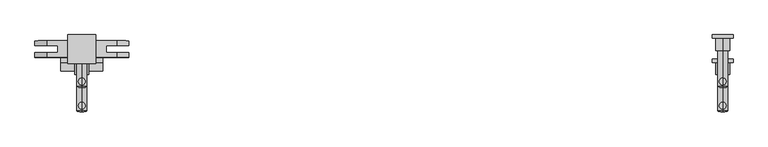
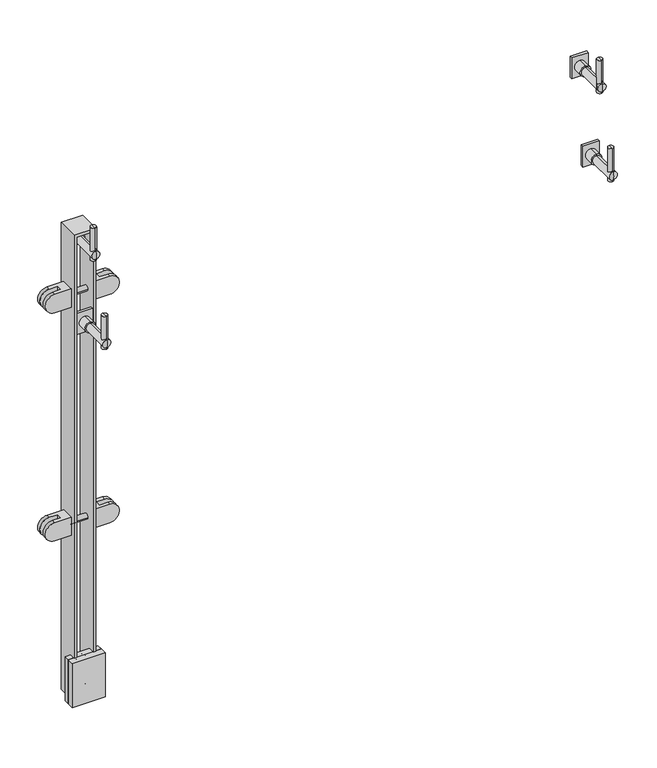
"""IFC4 building model written with IfcOpenShell, lengths in millimetres: proxy geometry, LIVERS_ICN - Glass Panel : LIVERS_ICN - Glass Panel."""

from ifc_helpers import new_model, si_unit, point, frame, origin, place, context, project, spatial, polyline, circle_curve, ellipse_curve, trimmed, outline, extrude, faceted_brep, source, transform, mapped, element, save
from ifc_brep_helpers import plane_surface, cylinder_surface, revolved_surface, advanced_brep


def building_element_proxy_1b5f86b6(model_context):
    return source(origin(), model_context, "Body", "SolidModel", [
        advanced_brep(
        [(46.6787319, 60.3249609, 991.2180522), (46.6787319, 60.3249609, 978.5180522), (46.6787319, 60.3249609, 965.8180522), (46.6787319, 38.0999609, 991.2180522), (46.6787319, 38.0999609, 965.8180522), (46.6787319, 38.0999609, 978.5180522)],
        [
            (0, 1),
            (1, 2),
            (2, 0, circle_curve(frame((46.6787319, 60.3249609, 978.5180522), z_axis=(0.0, 1.0, 0.0), x_axis=(0.0, 0.0, -1.0)), 12.7)),
            (0, 2, circle_curve(frame((46.6787319, 60.3249609, 978.5180522), z_axis=(0.0, 1.0, 0.0), x_axis=(0.0, 0.0, -1.0)), 12.7)),
            (3, 0),
            (2, 4),
            (4, 3, circle_curve(frame((46.6787319, 38.0999609, 978.5180522), z_axis=(0.0, 1.0, 0.0), x_axis=(0.0, 0.0, -1.0)), 12.7)),
            (3, 4, circle_curve(frame((46.6787319, 38.0999609, 978.5180522), z_axis=(0.0, 1.0, 0.0), x_axis=(0.0, 0.0, -1.0)), 12.7)),
            (5, 3),
            (4, 5),
        ],
        [
            plane_surface(frame((46.6787319, 60.3249609, 978.5180522), z_axis=(0.0, 1.0, 0.0), x_axis=(0.0, 0.0, -1.0))),
            cylinder_surface(frame((46.6787319, 69.3828283, 978.5180522), z_axis=(0.0, -1.0, 0.0), x_axis=(0.0, 0.0, -1.0)), 12.7),
            plane_surface(frame((46.6787319, 38.0999609, 978.5180522), z_axis=(0.0, -1.0, 0.0), x_axis=(0.0, 0.0, -1.0))),
        ],
        [
            (0, [[1, 2, 3]]),
            (0, [[-2, -1, 4]]),
            (1, [[5, -3, 6, 7]]),
            (1, [[-6, -4, -5, 8]]),
            (2, [[9, -7, 10]]),
            (2, [[-10, -8, -9]]),
        ],
    ),
        advanced_brep(
        [(46.6787319, -25.4004131, 1043.1838845), (46.6787319, -19.0504161, 1043.1838845), (46.6787319, -12.7004191, 1043.1838845), (46.6787319, -25.4004131, 962.7878163), (46.6787319, -12.7004191, 962.7878163), (46.6787319, -19.0504161, 962.7878163)],
        [
            (0, 1),
            (1, 2),
            (2, 0, circle_curve(frame((46.6787319, -19.0504161, 1043.1838845), z_axis=(0.0, 0.0, 1.0), x_axis=(0.0, 1.0, 0.0)), 6.349997)),
            (0, 2, circle_curve(frame((46.6787319, -19.0504161, 1043.1838845), z_axis=(0.0, 0.0, 1.0), x_axis=(0.0, 1.0, 0.0)), 6.349997)),
            (3, 0),
            (2, 4),
            (4, 3, circle_curve(frame((46.6787319, -19.0504161, 962.7878163), z_axis=(0.0, 0.0, 1.0), x_axis=(0.0, 1.0, 0.0)), 6.349997)),
            (3, 4, circle_curve(frame((46.6787319, -19.0504161, 962.7878163), z_axis=(0.0, 0.0, 1.0), x_axis=(0.0, 1.0, 0.0)), 6.349997)),
            (5, 3),
            (4, 5),
        ],
        [
            plane_surface(frame((46.6787319, -19.0504161, 1043.1838845), z_axis=(0.0, 0.0, 1.0), x_axis=(0.0, 1.0, 0.0))),
            cylinder_surface(frame((46.6787319, -19.0504161, 1057.0348914), z_axis=(0.0, 0.0, -1.0), x_axis=(0.0, 1.0, 0.0)), 6.349997),
            plane_surface(frame((46.6787319, -19.0504161, 962.7878163), z_axis=(0.0, 0.0, -1.0), x_axis=(0.0, 1.0, 0.0))),
        ],
        [
            (0, [[1, 2, 3]]),
            (0, [[-2, -1, 4]]),
            (1, [[5, -3, 6, 7]]),
            (1, [[-6, -4, -5, 8]]),
            (2, [[9, -7, 10]]),
            (2, [[-10, -8, -9]]),
        ],
    ),
        advanced_brep(
        [(46.6787319, -30.1375464, 978.5180522), (46.6787319, -28.5500464, 988.0430522), (46.6787319, -28.5500464, 968.9930522), (46.6787319, 38.0999609, 988.0430522), (46.6787319, 38.0999609, 978.5180522), (46.6787319, 38.0999609, 968.9930522)],
        [
            (0, 1, circle_curve(frame((46.6787319, -0.7687964, 978.5180522), z_axis=(-1.0, 0.0, 0.0), x_axis=(0.0, 1.0, 0.0)), 29.36875)),
            (1, 2, circle_curve(frame((46.6787319, -28.5500464, 978.5180522), z_axis=(0.0, -1.0, 0.0), x_axis=(0.0, 0.0, -1.0)), 9.525)),
            (2, 0, circle_curve(frame((46.6787319, -0.7687964, 978.5180522), z_axis=(-1.0, 0.0, 0.0), x_axis=(0.0, 1.0, 0.0)), 29.36875)),
            (2, 1, circle_curve(frame((46.6787319, -28.5500464, 978.5180522), z_axis=(0.0, -1.0, 0.0), x_axis=(0.0, 0.0, -1.0)), 9.525)),
            (3, 4),
            (4, 5),
            (5, 3, circle_curve(frame((46.6787319, 38.0999609, 978.5180522), z_axis=(0.0, 1.0, 0.0), x_axis=(0.0, 0.0, -1.0)), 9.525)),
            (3, 5, circle_curve(frame((46.6787319, 38.0999609, 978.5180522), z_axis=(0.0, 1.0, 0.0), x_axis=(0.0, 0.0, -1.0)), 9.525)),
            (1, 3),
            (5, 2),
        ],
        [
            revolved_surface(trimmed(ellipse_curve(frame((46.6787319, -0.7687964, 978.5180522), z_axis=(-1.0, 0.0, 0.0), x_axis=(0.0, 1.0, 0.0)), 29.36875, 29.36875), [point((46.6787319, -28.5500464, 968.9930522))], [point((46.6787319, -30.1375464, 978.5180522))], True, "CARTESIAN"), (46.6787319, 30.3031204, 978.5180522), (0.0, -1.0, 0.0)),
            plane_surface(frame((46.6787319, 38.0999609, 978.5180522), z_axis=(0.0, 1.0, 0.0), x_axis=(0.0, 0.0, -1.0))),
            cylinder_surface(frame((46.6787319, 30.3031204, 978.5180522), z_axis=(0.0, -1.0, 0.0), x_axis=(0.0, 0.0, -1.0)), 9.525),
        ],
        [
            (0, [[1, 2, 3]]),
            (0, [[-3, 4, -1]]),
            (1, [[5, 6, 7]]),
            (1, [[-6, -5, 8]]),
            (2, [[9, -7, 10, -2]]),
            (2, [[-10, -8, -9, -4]]),
        ],
    ),
        extrude(outline(polyline([(65.7287319, 66.6749609), (65.7287319, 60.3249609), (27.6287319, 60.3249609), (27.6287319, 66.6749609), (65.7287319, 66.6749609)])), frame((0.0, 0.0, 953.1180522), z_axis=(0.0, 0.0, 1.0), x_axis=(1.0, 0.0, 0.0)), (0.0, 0.0, 1.0), 50.8),
        advanced_brep(
        [(1219.2, 60.3249609, 991.2180522), (1219.2, 60.3249609, 978.5180522), (1219.2, 60.3249609, 965.8180522), (1219.2, 38.0999609, 991.2180522), (1219.2, 38.0999609, 965.8180522), (1219.2, 38.0999609, 978.5180522)],
        [
            (0, 1),
            (1, 2),
            (2, 0, circle_curve(frame((1219.2, 60.3249609, 978.5180522), z_axis=(0.0, 1.0, 0.0), x_axis=(0.0, 0.0, -1.0)), 12.7)),
            (0, 2, circle_curve(frame((1219.2, 60.3249609, 978.5180522), z_axis=(0.0, 1.0, 0.0), x_axis=(0.0, 0.0, -1.0)), 12.7)),
            (3, 0),
            (2, 4),
            (4, 3, circle_curve(frame((1219.2, 38.0999609, 978.5180522), z_axis=(0.0, 1.0, 0.0), x_axis=(0.0, 0.0, -1.0)), 12.7)),
            (3, 4, circle_curve(frame((1219.2, 38.0999609, 978.5180522), z_axis=(0.0, 1.0, 0.0), x_axis=(0.0, 0.0, -1.0)), 12.7)),
            (5, 3),
            (4, 5),
        ],
        [
            plane_surface(frame((1219.2, 60.3249609, 978.5180522), z_axis=(0.0, 1.0, 0.0), x_axis=(0.0, 0.0, -1.0))),
            cylinder_surface(frame((1219.2, 69.3828283, 978.5180522), z_axis=(0.0, -1.0, 0.0), x_axis=(0.0, 0.0, -1.0)), 12.7),
            plane_surface(frame((1219.2, 38.0999609, 978.5180522), z_axis=(0.0, -1.0, 0.0), x_axis=(0.0, 0.0, -1.0))),
        ],
        [
            (0, [[1, 2, 3]]),
            (0, [[-2, -1, 4]]),
            (1, [[5, -3, 6, 7]]),
            (1, [[-6, -4, -5, 8]]),
            (2, [[9, -7, 10]]),
            (2, [[-10, -8, -9]]),
        ],
    ),
        advanced_brep(
        [(1219.2, -25.4004131, 1043.1838845), (1219.2, -19.0504161, 1043.1838845), (1219.2, -12.7004191, 1043.1838845), (1219.2, -25.4004131, 962.7878163), (1219.2, -12.7004191, 962.7878163), (1219.2, -19.0504161, 962.7878163)],
        [
            (0, 1),
            (1, 2),
            (2, 0, circle_curve(frame((1219.2, -19.0504161, 1043.1838845), z_axis=(0.0, 0.0, 1.0), x_axis=(0.0, 1.0, 0.0)), 6.349997)),
            (0, 2, circle_curve(frame((1219.2, -19.0504161, 1043.1838845), z_axis=(0.0, 0.0, 1.0), x_axis=(0.0, 1.0, 0.0)), 6.349997)),
            (3, 0),
            (2, 4),
            (4, 3, circle_curve(frame((1219.2, -19.0504161, 962.7878163), z_axis=(0.0, 0.0, 1.0), x_axis=(0.0, 1.0, 0.0)), 6.349997)),
            (3, 4, circle_curve(frame((1219.2, -19.0504161, 962.7878163), z_axis=(0.0, 0.0, 1.0), x_axis=(0.0, 1.0, 0.0)), 6.349997)),
            (5, 3),
            (4, 5),
        ],
        [
            plane_surface(frame((1219.2, -19.0504161, 1043.1838845), z_axis=(0.0, 0.0, 1.0), x_axis=(0.0, 1.0, 0.0))),
            cylinder_surface(frame((1219.2, -19.0504161, 1057.0348914), z_axis=(0.0, 0.0, -1.0), x_axis=(0.0, 1.0, 0.0)), 6.349997),
            plane_surface(frame((1219.2, -19.0504161, 962.7878163), z_axis=(0.0, 0.0, -1.0), x_axis=(0.0, 1.0, 0.0))),
        ],
        [
            (0, [[1, 2, 3]]),
            (0, [[-2, -1, 4]]),
            (1, [[5, -3, 6, 7]]),
            (1, [[-6, -4, -5, 8]]),
            (2, [[9, -7, 10]]),
            (2, [[-10, -8, -9]]),
        ],
    ),
        advanced_brep(
        [(1219.2, -30.1375464, 978.5180522), (1219.2, -28.5500464, 988.0430522), (1219.2, -28.5500464, 968.9930522), (1219.2, 38.0999609, 988.0430522), (1219.2, 38.0999609, 978.5180522), (1219.2, 38.0999609, 968.9930522)],
        [
            (0, 1, circle_curve(frame((1219.2, -0.7687964, 978.5180522), z_axis=(-1.0, 0.0, 0.0), x_axis=(0.0, 1.0, 0.0)), 29.36875)),
            (1, 2, circle_curve(frame((1219.2, -28.5500464, 978.5180522), z_axis=(0.0, -1.0, 0.0), x_axis=(0.0, 0.0, -1.0)), 9.525)),
            (2, 0, circle_curve(frame((1219.2, -0.7687964, 978.5180522), z_axis=(-1.0, 0.0, 0.0), x_axis=(0.0, 1.0, 0.0)), 29.36875)),
            (2, 1, circle_curve(frame((1219.2, -28.5500464, 978.5180522), z_axis=(0.0, -1.0, 0.0), x_axis=(0.0, 0.0, -1.0)), 9.525)),
            (3, 4),
            (4, 5),
            (5, 3, circle_curve(frame((1219.2, 38.0999609, 978.5180522), z_axis=(0.0, 1.0, 0.0), x_axis=(0.0, 0.0, -1.0)), 9.525)),
            (3, 5, circle_curve(frame((1219.2, 38.0999609, 978.5180522), z_axis=(0.0, 1.0, 0.0), x_axis=(0.0, 0.0, -1.0)), 9.525)),
            (1, 3),
            (5, 2),
        ],
        [
            revolved_surface(trimmed(ellipse_curve(frame((1219.2, -0.7687964, 978.5180522), z_axis=(-1.0, 0.0, 0.0), x_axis=(0.0, 1.0, 0.0)), 29.36875, 29.36875), [point((1219.2, -28.5500464, 968.9930522))], [point((1219.2, -30.1375464, 978.5180522))], True, "CARTESIAN"), (1219.2, 30.3031204, 978.5180522), (0.0, -1.0, 0.0)),
            plane_surface(frame((1219.2, 38.0999609, 978.5180522), z_axis=(0.0, 1.0, 0.0), x_axis=(0.0, 0.0, -1.0))),
            cylinder_surface(frame((1219.2, 30.3031204, 978.5180522), z_axis=(0.0, -1.0, 0.0), x_axis=(0.0, 0.0, -1.0)), 9.525),
        ],
        [
            (0, [[1, 2, 3]]),
            (0, [[-3, 4, -1]]),
            (1, [[5, 6, 7]]),
            (1, [[-6, -5, 8]]),
            (2, [[9, -7, 10, -2]]),
            (2, [[-10, -8, -9, -4]]),
        ],
    ),
        extrude(outline(polyline([(1238.25, 66.6749609), (1238.25, 60.3249609), (1200.15, 60.3249609), (1200.15, 66.6749609), (1238.25, 66.6749609)])), frame((0.0, 0.0, 953.1180522), z_axis=(0.0, 0.0, 1.0), x_axis=(1.0, 0.0, 0.0)), (0.0, 0.0, 1.0), 50.8),
        advanced_brep(
        [(46.6787319, 15.875, 802.0090959), (46.6787319, 15.875, 789.3090959), (46.6787319, 15.875, 776.6090959), (46.6787319, -6.35, 802.0090959), (46.6787319, -6.35, 776.6090959), (46.6787319, -6.35, 789.3090959)],
        [
            (0, 1),
            (1, 2),
            (2, 0, circle_curve(frame((46.6787319, 15.875, 789.3090959), z_axis=(0.0, 1.0, 0.0), x_axis=(0.0, 0.0, -1.0)), 12.7)),
            (0, 2, circle_curve(frame((46.6787319, 15.875, 789.3090959), z_axis=(0.0, 1.0, 0.0), x_axis=(0.0, 0.0, -1.0)), 12.7)),
            (3, 0),
            (2, 4),
            (4, 3, circle_curve(frame((46.6787319, -6.35, 789.3090959), z_axis=(0.0, 1.0, 0.0), x_axis=(0.0, 0.0, -1.0)), 12.7)),
            (3, 4, circle_curve(frame((46.6787319, -6.35, 789.3090959), z_axis=(0.0, 1.0, 0.0), x_axis=(0.0, 0.0, -1.0)), 12.7)),
            (5, 3),
            (4, 5),
        ],
        [
            plane_surface(frame((46.6787319, 15.875, 789.3090959), z_axis=(0.0, 1.0, 0.0), x_axis=(0.0, 0.0, -1.0))),
            cylinder_surface(frame((46.6787319, 24.9328674, 789.3090959), z_axis=(0.0, -1.0, 0.0), x_axis=(0.0, 0.0, -1.0)), 12.7),
            plane_surface(frame((46.6787319, -6.35, 789.3090959), z_axis=(0.0, -1.0, 0.0), x_axis=(0.0, 0.0, -1.0))),
        ],
        [
            (0, [[1, 2, 3]]),
            (0, [[-2, -1, 4]]),
            (1, [[5, -3, 6, 7]]),
            (1, [[-6, -4, -5, 8]]),
            (2, [[9, -7, 10]]),
            (2, [[-10, -8, -9]]),
        ],
    ),
        advanced_brep(
        [(46.6787319, -69.850374, 853.9749282), (46.6787319, -63.500377, 853.9749282), (46.6787319, -57.15038, 853.9749282), (46.6787319, -69.850374, 773.57886), (46.6787319, -57.15038, 773.57886), (46.6787319, -63.500377, 773.57886)],
        [
            (0, 1),
            (1, 2),
            (2, 0, circle_curve(frame((46.6787319, -63.500377, 853.9749282), z_axis=(0.0, 0.0, 1.0), x_axis=(0.0, 1.0, 0.0)), 6.349997)),
            (0, 2, circle_curve(frame((46.6787319, -63.500377, 853.9749282), z_axis=(0.0, 0.0, 1.0), x_axis=(0.0, 1.0, 0.0)), 6.349997)),
            (3, 0),
            (2, 4),
            (4, 3, circle_curve(frame((46.6787319, -63.500377, 773.57886), z_axis=(0.0, 0.0, 1.0), x_axis=(0.0, 1.0, 0.0)), 6.349997)),
            (3, 4, circle_curve(frame((46.6787319, -63.500377, 773.57886), z_axis=(0.0, 0.0, 1.0), x_axis=(0.0, 1.0, 0.0)), 6.349997)),
            (5, 3),
            (4, 5),
        ],
        [
            plane_surface(frame((46.6787319, -63.500377, 853.9749282), z_axis=(0.0, 0.0, 1.0), x_axis=(0.0, 1.0, 0.0))),
            cylinder_surface(frame((46.6787319, -63.500377, 867.8259351), z_axis=(0.0, 0.0, -1.0), x_axis=(0.0, 1.0, 0.0)), 6.349997),
            plane_surface(frame((46.6787319, -63.500377, 773.57886), z_axis=(0.0, 0.0, -1.0), x_axis=(0.0, 1.0, 0.0))),
        ],
        [
            (0, [[1, 2, 3]]),
            (0, [[-2, -1, 4]]),
            (1, [[5, -3, 6, 7]]),
            (1, [[-6, -4, -5, 8]]),
            (2, [[9, -7, 10]]),
            (2, [[-10, -8, -9]]),
        ],
    ),
        advanced_brep(
        [(46.6787319, -74.5875073, 789.3090959), (46.6787319, -73.0000073, 798.8340959), (46.6787319, -73.0000073, 779.7840959), (46.6787319, -6.35, 798.8340959), (46.6787319, -6.35, 789.3090959), (46.6787319, -6.35, 779.7840959)],
        [
            (0, 1, circle_curve(frame((46.6787319, -45.2187573, 789.3090959), z_axis=(-1.0, 0.0, 0.0), x_axis=(0.0, 1.0, 0.0)), 29.36875)),
            (1, 2, circle_curve(frame((46.6787319, -73.0000073, 789.3090959), z_axis=(0.0, -1.0, 0.0), x_axis=(0.0, 0.0, -1.0)), 9.525)),
            (2, 0, circle_curve(frame((46.6787319, -45.2187573, 789.3090959), z_axis=(-1.0, 0.0, 0.0), x_axis=(0.0, 1.0, 0.0)), 29.36875)),
            (2, 1, circle_curve(frame((46.6787319, -73.0000073, 789.3090959), z_axis=(0.0, -1.0, 0.0), x_axis=(0.0, 0.0, -1.0)), 9.525)),
            (3, 4),
            (4, 5),
            (5, 3, circle_curve(frame((46.6787319, -6.35, 789.3090959), z_axis=(0.0, 1.0, 0.0), x_axis=(0.0, 0.0, -1.0)), 9.525)),
            (3, 5, circle_curve(frame((46.6787319, -6.35, 789.3090959), z_axis=(0.0, 1.0, 0.0), x_axis=(0.0, 0.0, -1.0)), 9.525)),
            (1, 3),
            (5, 2),
        ],
        [
            revolved_surface(trimmed(ellipse_curve(frame((46.6787319, -45.2187573, 789.3090959), z_axis=(-1.0, 0.0, 0.0), x_axis=(0.0, 1.0, 0.0)), 29.36875, 29.36875), [point((46.6787319, -73.0000073, 779.7840959))], [point((46.6787319, -74.5875073, 789.3090959))], True, "CARTESIAN"), (46.6787319, -14.1468405, 789.3090959), (0.0, -1.0, 0.0)),
            plane_surface(frame((46.6787319, -6.35, 789.3090959), z_axis=(0.0, 1.0, 0.0), x_axis=(0.0, 0.0, -1.0))),
            cylinder_surface(frame((46.6787319, -14.1468405, 789.3090959), z_axis=(0.0, -1.0, 0.0), x_axis=(0.0, 0.0, -1.0)), 9.525),
        ],
        [
            (0, [[1, 2, 3]]),
            (0, [[-3, 4, -1]]),
            (1, [[5, 6, 7]]),
            (1, [[-6, -5, 8]]),
            (2, [[9, -7, 10, -2]]),
            (2, [[-10, -8, -9, -4]]),
        ],
    ),
        extrude(outline(polyline([(65.7287319, 22.225), (65.7287319, 15.875), (27.6287319, 15.875), (27.6287319, 22.225), (65.7287319, 22.225)])), frame((0.0, 0.0, 763.9090959), z_axis=(0.0, 0.0, 1.0), x_axis=(1.0, 0.0, 0.0)), (0.0, 0.0, 1.0), 50.8),
        advanced_brep(
        [(1219.2, 15.875, 802.0090959), (1219.2, 15.875, 789.3090959), (1219.2, 15.875, 776.6090959), (1219.2, -6.35, 802.0090959), (1219.2, -6.35, 776.6090959), (1219.2, -6.35, 789.3090959)],
        [
            (0, 1),
            (1, 2),
            (2, 0, circle_curve(frame((1219.2, 15.875, 789.3090959), z_axis=(0.0, 1.0, 0.0), x_axis=(0.0, 0.0, -1.0)), 12.7)),
            (0, 2, circle_curve(frame((1219.2, 15.875, 789.3090959), z_axis=(0.0, 1.0, 0.0), x_axis=(0.0, 0.0, -1.0)), 12.7)),
            (3, 0),
            (2, 4),
            (4, 3, circle_curve(frame((1219.2, -6.35, 789.3090959), z_axis=(0.0, 1.0, 0.0), x_axis=(0.0, 0.0, -1.0)), 12.7)),
            (3, 4, circle_curve(frame((1219.2, -6.35, 789.3090959), z_axis=(0.0, 1.0, 0.0), x_axis=(0.0, 0.0, -1.0)), 12.7)),
            (5, 3),
            (4, 5),
        ],
        [
            plane_surface(frame((1219.2, 15.875, 789.3090959), z_axis=(0.0, 1.0, 0.0), x_axis=(0.0, 0.0, -1.0))),
            cylinder_surface(frame((1219.2, 24.9328674, 789.3090959), z_axis=(0.0, -1.0, 0.0), x_axis=(0.0, 0.0, -1.0)), 12.7),
            plane_surface(frame((1219.2, -6.35, 789.3090959), z_axis=(0.0, -1.0, 0.0), x_axis=(0.0, 0.0, -1.0))),
        ],
        [
            (0, [[1, 2, 3]]),
            (0, [[-2, -1, 4]]),
            (1, [[5, -3, 6, 7]]),
            (1, [[-6, -4, -5, 8]]),
            (2, [[9, -7, 10]]),
            (2, [[-10, -8, -9]]),
        ],
    ),
        advanced_brep(
        [(1219.2, -69.850374, 853.9749282), (1219.2, -63.500377, 853.9749282), (1219.2, -57.15038, 853.9749282), (1219.2, -69.850374, 773.57886), (1219.2, -57.15038, 773.57886), (1219.2, -63.500377, 773.57886)],
        [
            (0, 1),
            (1, 2),
            (2, 0, circle_curve(frame((1219.2, -63.500377, 853.9749282), z_axis=(0.0, 0.0, 1.0), x_axis=(0.0, 1.0, 0.0)), 6.349997)),
            (0, 2, circle_curve(frame((1219.2, -63.500377, 853.9749282), z_axis=(0.0, 0.0, 1.0), x_axis=(0.0, 1.0, 0.0)), 6.349997)),
            (3, 0),
            (2, 4),
            (4, 3, circle_curve(frame((1219.2, -63.500377, 773.57886), z_axis=(0.0, 0.0, 1.0), x_axis=(0.0, 1.0, 0.0)), 6.349997)),
            (3, 4, circle_curve(frame((1219.2, -63.500377, 773.57886), z_axis=(0.0, 0.0, 1.0), x_axis=(0.0, 1.0, 0.0)), 6.349997)),
            (5, 3),
            (4, 5),
        ],
        [
            plane_surface(frame((1219.2, -63.500377, 853.9749282), z_axis=(0.0, 0.0, 1.0), x_axis=(0.0, 1.0, 0.0))),
            cylinder_surface(frame((1219.2, -63.500377, 867.8259351), z_axis=(0.0, 0.0, -1.0), x_axis=(0.0, 1.0, 0.0)), 6.349997),
            plane_surface(frame((1219.2, -63.500377, 773.57886), z_axis=(0.0, 0.0, -1.0), x_axis=(0.0, 1.0, 0.0))),
        ],
        [
            (0, [[1, 2, 3]]),
            (0, [[-2, -1, 4]]),
            (1, [[5, -3, 6, 7]]),
            (1, [[-6, -4, -5, 8]]),
            (2, [[9, -7, 10]]),
            (2, [[-10, -8, -9]]),
        ],
    ),
        advanced_brep(
        [(1219.2, -74.5875073, 789.3090959), (1219.2, -73.0000073, 798.8340959), (1219.2, -73.0000073, 779.7840959), (1219.2, -6.35, 798.8340959), (1219.2, -6.35, 789.3090959), (1219.2, -6.35, 779.7840959)],
        [
            (0, 1, circle_curve(frame((1219.2, -45.2187573, 789.3090959), z_axis=(-1.0, 0.0, 0.0), x_axis=(0.0, 1.0, 0.0)), 29.36875)),
            (1, 2, circle_curve(frame((1219.2, -73.0000073, 789.3090959), z_axis=(0.0, -1.0, 0.0), x_axis=(0.0, 0.0, -1.0)), 9.525)),
            (2, 0, circle_curve(frame((1219.2, -45.2187573, 789.3090959), z_axis=(-1.0, 0.0, 0.0), x_axis=(0.0, 1.0, 0.0)), 29.36875)),
            (2, 1, circle_curve(frame((1219.2, -73.0000073, 789.3090959), z_axis=(0.0, -1.0, 0.0), x_axis=(0.0, 0.0, -1.0)), 9.525)),
            (3, 4),
            (4, 5),
            (5, 3, circle_curve(frame((1219.2, -6.35, 789.3090959), z_axis=(0.0, 1.0, 0.0), x_axis=(0.0, 0.0, -1.0)), 9.525)),
            (3, 5, circle_curve(frame((1219.2, -6.35, 789.3090959), z_axis=(0.0, 1.0, 0.0), x_axis=(0.0, 0.0, -1.0)), 9.525)),
            (1, 3),
            (5, 2),
        ],
        [
            revolved_surface(trimmed(ellipse_curve(frame((1219.2, -45.2187573, 789.3090959), z_axis=(-1.0, 0.0, 0.0), x_axis=(0.0, 1.0, 0.0)), 29.36875, 29.36875), [point((1219.2, -73.0000073, 779.7840959))], [point((1219.2, -74.5875073, 789.3090959))], True, "CARTESIAN"), (1219.2, -14.1468405, 789.3090959), (0.0, -1.0, 0.0)),
            plane_surface(frame((1219.2, -6.35, 789.3090959), z_axis=(0.0, 1.0, 0.0), x_axis=(0.0, 0.0, -1.0))),
            cylinder_surface(frame((1219.2, -14.1468405, 789.3090959), z_axis=(0.0, -1.0, 0.0), x_axis=(0.0, 0.0, -1.0)), 9.525),
        ],
        [
            (0, [[1, 2, 3]]),
            (0, [[-3, 4, -1]]),
            (1, [[5, 6, 7]]),
            (1, [[-6, -5, 8]]),
            (2, [[9, -7, 10, -2]]),
            (2, [[-10, -8, -9, -4]]),
        ],
    ),
        extrude(outline(polyline([(1238.25, 22.225), (1238.25, 15.875), (1200.15, 15.875), (1200.15, 22.225), (1238.25, 22.225)])), frame((0.0, 0.0, 763.9090959), z_axis=(0.0, 0.0, 1.0), x_axis=(1.0, 0.0, 0.0)), (0.0, 0.0, 1.0), 50.8),
        advanced_brep(
        [(21.2787319, 55.5624457, 313.5369168), (21.2787319, 25.3999457, 313.5369168), (21.2787319, 25.3999457, 269.0869168), (21.2787319, 55.5624457, 269.0869168), (-16.9223621, 55.5624457, 269.0869168), (-16.9223621, 55.5624457, 313.5369168), (-16.9223621, 25.3999457, 269.0869168), (-16.9223621, 34.1311957, 269.0869168), (2.4068127, 34.1311957, 269.0869168), (2.4068127, 46.8311957, 269.0869168), (-16.9223621, 46.8311957, 269.0869168), (-16.9223621, 25.3999457, 313.5369168), (-16.9223621, 46.8311957, 313.5369168), (2.4068127, 46.8311957, 313.5369168), (2.4068127, 34.1311957, 313.5369168), (-16.9223621, 34.1311957, 313.5369168)],
        [
            (0, 1),
            (1, 2),
            (2, 3),
            (3, 0),
            (3, 4),
            (4, 5, circle_curve(frame((-16.9223621, 55.5624457, 291.3119168), z_axis=(0.0, 1.0, 0.0), x_axis=(0.0, 0.0, -1.0)), 22.225)),
            (5, 0),
            (2, 6),
            (6, 7),
            (7, 8),
            (8, 9),
            (9, 10),
            (10, 4),
            (1, 11),
            (11, 6, circle_curve(frame((-16.9223621, 25.3999457, 291.3119168), z_axis=(0.0, -1.0, 0.0), x_axis=(0.0, 0.0, -1.0)), 22.225)),
            (5, 12),
            (12, 13),
            (13, 14),
            (14, 15),
            (15, 11),
            (13, 9),
            (8, 14),
            (12, 10, circle_curve(frame((-16.9223621, 46.8311957, 291.3119168), z_axis=(0.0, -1.0, 0.0), x_axis=(0.0, 0.0, -1.0)), 22.225)),
            (7, 15, circle_curve(frame((-16.9223621, 34.1311957, 291.3119168), z_axis=(0.0, 1.0, 0.0), x_axis=(0.0, 0.0, -1.0)), 22.225)),
        ],
        [
            plane_surface(frame((21.2787319, 55.5624457, 269.0869168), z_axis=(1.0, 0.0, 0.0), x_axis=(0.0, 0.0, 1.0))),
            plane_surface(frame((-39.2243489, 55.5624457, 313.5369168), z_axis=(0.0, 1.0, 0.0), x_axis=(1.0, 0.0, 0.0))),
            plane_surface(frame((-39.2243489, 55.5624457, 269.0869168), z_axis=(0.0, 0.0, -1.0), x_axis=(1.0, 0.0, 0.0))),
            plane_surface(frame((-39.2243489, 25.3999457, 269.0869168), z_axis=(0.0, -1.0, 0.0), x_axis=(1.0, 0.0, 0.0))),
            plane_surface(frame((-39.2243489, 25.3999457, 313.5369168), z_axis=(0.0, 0.0, 1.0), x_axis=(1.0, 0.0, 0.0))),
            plane_surface(frame((2.4068127, 46.8311957, 269.0869168), z_axis=(-1.0, 0.0, 0.0), x_axis=(0.0, 0.0, 1.0))),
            plane_surface(frame((-39.2243489, 46.8311957, 313.5369168), z_axis=(0.0, -1.0, 0.0), x_axis=(1.0, 0.0, 0.0))),
            plane_surface(frame((-39.2243489, 34.1311957, 269.0869168), z_axis=(0.0, 1.0, 0.0), x_axis=(1.0, 0.0, 0.0))),
            cylinder_surface(frame((-16.9223621, 55.5624457, 291.3119168), z_axis=(0.0, 1.0, 0.0), x_axis=(0.0, 0.0, -1.0)), 22.225),
        ],
        [
            (0, [[1, 2, 3, 4]]),
            (1, [[-4, 5, 6, 7]]),
            (2, [[-3, 8, 9, 10, 11, 12, 13, -5]]),
            (3, [[-2, 14, 15, -8]]),
            (4, [[-1, -7, 16, 17, 18, 19, 20, -14]]),
            (5, [[21, -11, 22, -18]]),
            (6, [[-21, -17, 23, -12]]),
            (7, [[-22, -10, 24, -19]]),
            (8, [[-6, -13, -23, -16]]),
            (8, [[-9, -15, -20, -24]]),
        ],
    ),
        advanced_brep(
        [(72.0787319, 55.5624457, 313.5369168), (72.0787319, 55.5624457, 269.0869168), (72.0787319, 25.3999457, 269.0869168), (72.0787319, 25.3999457, 313.5369168), (110.2798259, 55.5624457, 313.5369168), (110.2798259, 55.5624457, 269.0869168), (110.2798259, 46.8311957, 269.0869168), (90.9506511, 46.8311957, 269.0869168), (90.9506511, 34.1311957, 269.0869168), (110.2798259, 34.1311957, 269.0869168), (110.2798259, 25.3999457, 269.0869168), (110.2798259, 25.3999457, 313.5369168), (110.2798259, 34.1311957, 313.5369168), (90.9506511, 34.1311957, 313.5369168), (90.9506511, 46.8311957, 313.5369168), (110.2798259, 46.8311957, 313.5369168)],
        [
            (0, 1),
            (1, 2),
            (2, 3),
            (3, 0),
            (0, 4),
            (4, 5, circle_curve(frame((110.2798259, 55.5624457, 291.3119168), z_axis=(0.0, 1.0, 0.0), x_axis=(0.0, 0.0, -1.0)), 22.225)),
            (5, 1),
            (5, 6),
            (6, 7),
            (7, 8),
            (8, 9),
            (9, 10),
            (10, 2),
            (10, 11, circle_curve(frame((110.2798259, 25.3999457, 291.3119168), z_axis=(0.0, -1.0, 0.0), x_axis=(0.0, 0.0, -1.0)), 22.225)),
            (11, 3),
            (11, 12),
            (12, 13),
            (13, 14),
            (14, 15),
            (15, 4),
            (13, 8),
            (7, 14),
            (6, 15, circle_curve(frame((110.2798259, 46.8311957, 291.3119168), z_axis=(0.0, -1.0, 0.0), x_axis=(0.0, 0.0, -1.0)), 22.225)),
            (12, 9, circle_curve(frame((110.2798259, 34.1311957, 291.3119168), z_axis=(0.0, 1.0, 0.0), x_axis=(0.0, 0.0, -1.0)), 22.225)),
        ],
        [
            plane_surface(frame((72.0787319, 55.5624457, 269.0869168), z_axis=(-1.0, 0.0, 0.0), x_axis=(0.0, 0.0, 1.0))),
            plane_surface(frame((132.5818127, 55.5624457, 313.5369168), z_axis=(0.0, 1.0, 0.0), x_axis=(-1.0, 0.0, 0.0))),
            plane_surface(frame((132.5818127, 55.5624457, 269.0869168), z_axis=(0.0, 0.0, -1.0), x_axis=(-1.0, 0.0, 0.0))),
            plane_surface(frame((132.5818127, 25.3999457, 269.0869168), z_axis=(0.0, -1.0, 0.0), x_axis=(-1.0, 0.0, 0.0))),
            plane_surface(frame((132.5818127, 25.3999457, 313.5369168), z_axis=(0.0, 0.0, 1.0), x_axis=(-1.0, 0.0, 0.0))),
            plane_surface(frame((90.9506511, 46.8311957, 269.0869168), z_axis=(1.0, 0.0, 0.0), x_axis=(0.0, 0.0, 1.0))),
            plane_surface(frame((132.5818127, 46.8311957, 313.5369168), z_axis=(0.0, -1.0, 0.0), x_axis=(-1.0, 0.0, 0.0))),
            plane_surface(frame((132.5818127, 34.1311957, 269.0869168), z_axis=(0.0, 1.0, 0.0), x_axis=(-1.0, 0.0, 0.0))),
            cylinder_surface(frame((110.2798259, 55.5624457, 291.3119168), z_axis=(0.0, 1.0, 0.0), x_axis=(0.0, 0.0, -1.0)), 22.225),
        ],
        [
            (0, [[1, 2, 3, 4]]),
            (1, [[5, 6, 7, -1]]),
            (2, [[-7, 8, 9, 10, 11, 12, 13, -2]]),
            (3, [[-13, 14, 15, -3]]),
            (4, [[-15, 16, 17, 18, 19, 20, -5, -4]]),
            (5, [[-18, 21, -10, 22]]),
            (6, [[-9, 23, -19, -22]]),
            (7, [[-17, 24, -11, -21]]),
            (8, [[-20, -23, -8, -6]]),
            (8, [[-24, -16, -14, -12]]),
        ],
    ),
        advanced_brep(
        [(21.2787319, 55.5624457, 872.3369168), (21.2787319, 25.3999457, 872.3369168), (21.2787319, 25.3999457, 827.8869168), (21.2787319, 55.5624457, 827.8869168), (-16.9223621, 55.5624457, 827.8869168), (-16.9223621, 55.5624457, 872.3369168), (-16.9223621, 25.3999457, 827.8869168), (-16.9223621, 34.1311957, 827.8869168), (2.4068127, 34.1311957, 827.8869168), (2.4068127, 46.8311957, 827.8869168), (-16.9223621, 46.8311957, 827.8869168), (-16.9223621, 25.3999457, 872.3369168), (-16.9223621, 46.8311957, 872.3369168), (2.4068127, 46.8311957, 872.3369168), (2.4068127, 34.1311957, 872.3369168), (-16.9223621, 34.1311957, 872.3369168)],
        [
            (0, 1),
            (1, 2),
            (2, 3),
            (3, 0),
            (3, 4),
            (4, 5, circle_curve(frame((-16.9223621, 55.5624457, 850.1119168), z_axis=(0.0, 1.0, 0.0), x_axis=(0.0, 0.0, -1.0)), 22.225)),
            (5, 0),
            (2, 6),
            (6, 7),
            (7, 8),
            (8, 9),
            (9, 10),
            (10, 4),
            (1, 11),
            (11, 6, circle_curve(frame((-16.9223621, 25.3999457, 850.1119168), z_axis=(0.0, -1.0, 0.0), x_axis=(0.0, 0.0, -1.0)), 22.225)),
            (5, 12),
            (12, 13),
            (13, 14),
            (14, 15),
            (15, 11),
            (13, 9),
            (8, 14),
            (12, 10, circle_curve(frame((-16.9223621, 46.8311957, 850.1119168), z_axis=(0.0, -1.0, 0.0), x_axis=(0.0, 0.0, -1.0)), 22.225)),
            (7, 15, circle_curve(frame((-16.9223621, 34.1311957, 850.1119168), z_axis=(0.0, 1.0, 0.0), x_axis=(0.0, 0.0, -1.0)), 22.225)),
        ],
        [
            plane_surface(frame((21.2787319, 55.5624457, 827.8869168), z_axis=(1.0, 0.0, 0.0), x_axis=(0.0, 0.0, 1.0))),
            plane_surface(frame((-39.2243489, 55.5624457, 872.3369168), z_axis=(0.0, 1.0, 0.0), x_axis=(1.0, 0.0, 0.0))),
            plane_surface(frame((-39.2243489, 55.5624457, 827.8869168), z_axis=(0.0, 0.0, -1.0), x_axis=(1.0, 0.0, 0.0))),
            plane_surface(frame((-39.2243489, 25.3999457, 827.8869168), z_axis=(0.0, -1.0, 0.0), x_axis=(1.0, 0.0, 0.0))),
            plane_surface(frame((-39.2243489, 25.3999457, 872.3369168), z_axis=(0.0, 0.0, 1.0), x_axis=(1.0, 0.0, 0.0))),
            plane_surface(frame((2.4068127, 46.8311957, 827.8869168), z_axis=(-1.0, 0.0, 0.0), x_axis=(0.0, 0.0, 1.0))),
            plane_surface(frame((-39.2243489, 46.8311957, 872.3369168), z_axis=(0.0, -1.0, 0.0), x_axis=(1.0, 0.0, 0.0))),
            plane_surface(frame((-39.2243489, 34.1311957, 827.8869168), z_axis=(0.0, 1.0, 0.0), x_axis=(1.0, 0.0, 0.0))),
            cylinder_surface(frame((-16.9223621, 55.5624457, 850.1119168), z_axis=(0.0, 1.0, 0.0), x_axis=(0.0, 0.0, -1.0)), 22.225),
        ],
        [
            (0, [[1, 2, 3, 4]]),
            (1, [[-4, 5, 6, 7]]),
            (2, [[-3, 8, 9, 10, 11, 12, 13, -5]]),
            (3, [[-2, 14, 15, -8]]),
            (4, [[-1, -7, 16, 17, 18, 19, 20, -14]]),
            (5, [[21, -11, 22, -18]]),
            (6, [[-21, -17, 23, -12]]),
            (7, [[-22, -10, 24, -19]]),
            (8, [[-6, -13, -23, -16]]),
            (8, [[-9, -15, -20, -24]]),
        ],
    ),
        advanced_brep(
        [(72.0787319, 55.5624457, 872.3369168), (72.0787319, 55.5624457, 827.8869168), (72.0787319, 25.3999457, 827.8869168), (72.0787319, 25.3999457, 872.3369168), (110.2798259, 55.5624457, 872.3369168), (110.2798259, 55.5624457, 827.8869168), (110.2798259, 46.8311957, 827.8869168), (90.9506511, 46.8311957, 827.8869168), (90.9506511, 34.1311957, 827.8869168), (110.2798259, 34.1311957, 827.8869168), (110.2798259, 25.3999457, 827.8869168), (110.2798259, 25.3999457, 872.3369168), (110.2798259, 34.1311957, 872.3369168), (90.9506511, 34.1311957, 872.3369168), (90.9506511, 46.8311957, 872.3369168), (110.2798259, 46.8311957, 872.3369168)],
        [
            (0, 1),
            (1, 2),
            (2, 3),
            (3, 0),
            (0, 4),
            (4, 5, circle_curve(frame((110.2798259, 55.5624457, 850.1119168), z_axis=(0.0, 1.0, 0.0), x_axis=(0.0, 0.0, -1.0)), 22.225)),
            (5, 1),
            (5, 6),
            (6, 7),
            (7, 8),
            (8, 9),
            (9, 10),
            (10, 2),
            (10, 11, circle_curve(frame((110.2798259, 25.3999457, 850.1119168), z_axis=(0.0, -1.0, 0.0), x_axis=(0.0, 0.0, -1.0)), 22.225)),
            (11, 3),
            (11, 12),
            (12, 13),
            (13, 14),
            (14, 15),
            (15, 4),
            (13, 8),
            (7, 14),
            (6, 15, circle_curve(frame((110.2798259, 46.8311957, 850.1119168), z_axis=(0.0, -1.0, 0.0), x_axis=(0.0, 0.0, -1.0)), 22.225)),
            (12, 9, circle_curve(frame((110.2798259, 34.1311957, 850.1119168), z_axis=(0.0, 1.0, 0.0), x_axis=(0.0, 0.0, -1.0)), 22.225)),
        ],
        [
            plane_surface(frame((72.0787319, 55.5624457, 827.8869168), z_axis=(-1.0, 0.0, 0.0), x_axis=(0.0, 0.0, 1.0))),
            plane_surface(frame((132.5818127, 55.5624457, 872.3369168), z_axis=(0.0, 1.0, 0.0), x_axis=(-1.0, 0.0, 0.0))),
            plane_surface(frame((132.5818127, 55.5624457, 827.8869168), z_axis=(0.0, 0.0, -1.0), x_axis=(-1.0, 0.0, 0.0))),
            plane_surface(frame((132.5818127, 25.3999457, 827.8869168), z_axis=(0.0, -1.0, 0.0), x_axis=(-1.0, 0.0, 0.0))),
            plane_surface(frame((132.5818127, 25.3999457, 872.3369168), z_axis=(0.0, 0.0, 1.0), x_axis=(-1.0, 0.0, 0.0))),
            plane_surface(frame((90.9506511, 46.8311957, 827.8869168), z_axis=(1.0, 0.0, 0.0), x_axis=(0.0, 0.0, 1.0))),
            plane_surface(frame((132.5818127, 46.8311957, 872.3369168), z_axis=(0.0, -1.0, 0.0), x_axis=(-1.0, 0.0, 0.0))),
            plane_surface(frame((132.5818127, 34.1311957, 827.8869168), z_axis=(0.0, 1.0, 0.0), x_axis=(-1.0, 0.0, 0.0))),
            cylinder_surface(frame((110.2798259, 55.5624457, 850.1119168), z_axis=(0.0, 1.0, 0.0), x_axis=(0.0, 0.0, -1.0)), 22.225),
        ],
        [
            (0, [[1, 2, 3, 4]]),
            (1, [[5, 6, 7, -1]]),
            (2, [[-7, 8, 9, 10, 11, 12, 13, -2]]),
            (3, [[-13, 14, 15, -3]]),
            (4, [[-15, 16, 17, 18, 19, 20, -5, -4]]),
            (5, [[-18, 21, -10, 22]]),
            (6, [[-9, 23, -19, -22]]),
            (7, [[-17, 24, -11, -21]]),
            (8, [[-20, -23, -8, -6]]),
            (8, [[-24, -16, -14, -12]]),
        ],
    ),
        advanced_brep(
        [(46.6787319, 28.575, -125.3541166), (46.6787319, 29.7562407, -125.3541166), (46.6787319, 29.7562407, -103.1291055), (46.6787319, 28.575, -103.1291055), (46.6787319, 28.575, -114.2416111), (46.6787319, 32.325, -119.8541166), (46.6787319, 30.8816229, -114.2416111), (46.6787319, 32.325, -108.6291055), (46.6787319, 34.8740117, -119.8541166), (46.6787319, 34.8740117, -108.6291055), (46.6787319, 33.8500285, -122.802123), (46.6787319, 33.8500285, -105.6810991), (46.6787319, 31.8562692, -124.5603989), (46.6787319, 31.8562692, -103.9228232)],
        [
            (0, 1),
            (1, 2, circle_curve(frame((46.6787319, 29.7562407, -114.2416111), z_axis=(0.0, -1.0, 0.0), x_axis=(0.0, 0.0, 1.0)), 11.1125056)),
            (2, 3),
            (3, 0, circle_curve(frame((46.6787319, 28.575, -114.2416111), z_axis=(0.0, 1.0, 0.0), x_axis=(0.0, 0.0, 1.0)), 11.1125056)),
            (2, 1, circle_curve(frame((46.6787319, 29.7562407, -114.2416111), z_axis=(0.0, -1.0, 0.0), x_axis=(0.0, 0.0, 1.0)), 11.1125056)),
            (0, 3, circle_curve(frame((46.6787319, 28.575, -114.2416111), z_axis=(0.0, 1.0, 0.0), x_axis=(0.0, 0.0, 1.0)), 11.1125056)),
            (4, 0),
            (3, 4),
            (5, 6),
            (6, 7),
            (7, 5, circle_curve(frame((46.6787319, 32.325, -114.2416111), z_axis=(0.0, 1.0, 0.0), x_axis=(0.0, 0.0, 1.0)), 5.6125056)),
            (5, 7, circle_curve(frame((46.6787319, 32.325, -114.2416111), z_axis=(0.0, 1.0, 0.0), x_axis=(0.0, 0.0, 1.0)), 5.6125056)),
            (8, 5),
            (7, 9),
            (9, 8, circle_curve(frame((46.6787319, 34.8740117, -114.2416111), z_axis=(0.0, 1.0, 0.0), x_axis=(0.0, 0.0, 1.0)), 5.6125056)),
            (8, 9, circle_curve(frame((46.6787319, 34.8740117, -114.2416111), z_axis=(0.0, 1.0, 0.0), x_axis=(0.0, 0.0, 1.0)), 5.6125056)),
            (10, 8, circle_curve(frame((46.6787319, 31.75, -120.4208407), z_axis=(1.0, 0.0, 0.0), x_axis=(0.0, -1.0, 0.0)), 3.175)),
            (9, 11, circle_curve(frame((46.6787319, 31.75, -108.0623814), z_axis=(1.0, 0.0, 0.0), x_axis=(0.0, -1.0, 0.0)), 3.175)),
            (11, 10, circle_curve(frame((46.6787319, 33.8500285, -114.2416111), z_axis=(0.0, 1.0, 0.0), x_axis=(0.0, 0.0, 1.0)), 8.560512)),
            (10, 11, circle_curve(frame((46.6787319, 33.8500285, -114.2416111), z_axis=(0.0, 1.0, 0.0), x_axis=(0.0, 0.0, 1.0)), 8.560512)),
            (12, 10),
            (11, 13),
            (13, 12, circle_curve(frame((46.6787319, 31.8562692, -114.2416111), z_axis=(0.0, 1.0, 0.0), x_axis=(0.0, 0.0, 1.0)), 10.3187879)),
            (12, 13, circle_curve(frame((46.6787319, 31.8562692, -114.2416111), z_axis=(0.0, 1.0, 0.0), x_axis=(0.0, 0.0, 1.0)), 10.3187879)),
            (1, 12, circle_curve(frame((46.6787319, 29.7562407, -122.1791166), z_axis=(1.0, 0.0, 0.0), x_axis=(0.0, -1.0, 0.0)), 3.175)),
            (13, 2, circle_curve(frame((46.6787319, 29.7562407, -106.3041055), z_axis=(1.0, 0.0, 0.0), x_axis=(0.0, -1.0, 0.0)), 3.175)),
        ],
        [
            cylinder_surface(frame((46.6787319, 28.575, -114.2416111), z_axis=(0.0, -1.0, 0.0), x_axis=(0.0, 0.0, 1.0)), 11.1125056),
            plane_surface(frame((46.6787319, 28.575, -114.2416111), z_axis=(0.0, -1.0, 0.0), x_axis=(0.0, 0.0, 1.0))),
            revolved_surface(polyline([(46.6787319, 30.8816229, -114.2416111), (46.6787319, 32.325, -108.6291055)]), (46.6787319, 28.575, -114.2416111), (0.0, -1.0, 0.0)),
            revolved_surface(polyline([(46.6787319, 32.325, -108.6291055), (46.6787319, 34.8740117, -108.6291055)]), (46.6787319, 28.575, -114.2416111), (0.0, -1.0, 0.0)),
            revolved_surface(trimmed(ellipse_curve(frame((46.6787319, 31.75, -108.0623814), z_axis=(1.0, 0.0, 0.0), x_axis=(0.0, -1.0, 0.0)), 3.175, 3.175), [point((46.6787319, 34.8740117, -108.6291055))], [point((46.6787319, 33.8500285, -105.6810991))], True, "CARTESIAN"), (46.6787319, 28.575, -114.2416111), (0.0, -1.0, 0.0)),
            revolved_surface(polyline([(46.6787319, 33.8500285, -105.6810991), (46.6787319, 31.8562692, -103.9228232)]), (46.6787319, 28.575, -114.2416111), (0.0, -1.0, 0.0)),
            revolved_surface(trimmed(ellipse_curve(frame((46.6787319, 29.7562407, -106.3041055), z_axis=(1.0, 0.0, 0.0), x_axis=(0.0, -1.0, 0.0)), 3.175, 3.175), [point((46.6787319, 31.8562692, -103.9228232))], [point((46.6787319, 29.7562407, -103.1291055))], True, "CARTESIAN"), (46.6787319, 28.575, -114.2416111), (0.0, -1.0, 0.0)),
        ],
        [
            (0, [[1, 2, 3, 4]]),
            (0, [[-3, 5, -1, 6]]),
            (1, [[7, -4, 8]]),
            (1, [[-8, -6, -7]]),
            (2, [[9, 10, 11]]),
            (2, [[-10, -9, 12]]),
            (3, [[13, -11, 14, 15]]),
            (3, [[-14, -12, -13, 16]]),
            (4, [[17, -15, 18, 19]]),
            (4, [[-18, -16, -17, 20]]),
            (5, [[21, -19, 22, 23]]),
            (5, [[-22, -20, -21, 24]]),
            (6, [[25, -23, 26, -2]]),
            (6, [[-26, -24, -25, -5]]),
        ],
    ),
        advanced_brep(
        [(46.6787319, 28.575, -55.5041166), (46.6787319, 29.7562407, -55.5041166), (46.6787319, 29.7562407, -33.2791055), (46.6787319, 28.575, -33.2791055), (46.6787319, 28.575, -44.3916111), (46.6787319, 33.8500285, -52.952123), (46.6787319, 34.8740117, -50.0041166), (46.6787319, 34.8740117, -38.7791055), (46.6787319, 33.8500285, -35.8310991), (46.6787319, 31.8562692, -54.7103989), (46.6787319, 31.8562692, -34.0728232), (46.6787319, 32.325, -50.0041166), (46.6787319, 30.8816229, -44.3916111), (46.6787319, 32.325, -38.7791055)],
        [
            (0, 1),
            (1, 2, circle_curve(frame((46.6787319, 29.7562407, -44.3916111), z_axis=(0.0, -1.0, 0.0), x_axis=(0.0, 0.0, 1.0)), 11.1125056)),
            (2, 3),
            (3, 0, circle_curve(frame((46.6787319, 28.575, -44.3916111), z_axis=(0.0, 1.0, 0.0), x_axis=(0.0, 0.0, 1.0)), 11.1125056)),
            (2, 1, circle_curve(frame((46.6787319, 29.7562407, -44.3916111), z_axis=(0.0, -1.0, 0.0), x_axis=(0.0, 0.0, 1.0)), 11.1125056)),
            (0, 3, circle_curve(frame((46.6787319, 28.575, -44.3916111), z_axis=(0.0, 1.0, 0.0), x_axis=(0.0, 0.0, 1.0)), 11.1125056)),
            (4, 0),
            (3, 4),
            (5, 6, circle_curve(frame((46.6787319, 31.75, -50.5708407), z_axis=(1.0, 0.0, 0.0), x_axis=(0.0, -1.0, 0.0)), 3.175)),
            (6, 7, circle_curve(frame((46.6787319, 34.8740117, -44.3916111), z_axis=(0.0, -1.0, 0.0), x_axis=(0.0, 0.0, 1.0)), 5.6125056)),
            (7, 8, circle_curve(frame((46.6787319, 31.75, -38.2123814), z_axis=(1.0, 0.0, 0.0), x_axis=(0.0, -1.0, 0.0)), 3.175)),
            (8, 5, circle_curve(frame((46.6787319, 33.8500285, -44.3916111), z_axis=(0.0, 1.0, 0.0), x_axis=(0.0, 0.0, 1.0)), 8.560512)),
            (7, 6, circle_curve(frame((46.6787319, 34.8740117, -44.3916111), z_axis=(0.0, -1.0, 0.0), x_axis=(0.0, 0.0, 1.0)), 5.6125056)),
            (5, 8, circle_curve(frame((46.6787319, 33.8500285, -44.3916111), z_axis=(0.0, 1.0, 0.0), x_axis=(0.0, 0.0, 1.0)), 8.560512)),
            (9, 5),
            (8, 10),
            (10, 9, circle_curve(frame((46.6787319, 31.8562692, -44.3916111), z_axis=(0.0, 1.0, 0.0), x_axis=(0.0, 0.0, 1.0)), 10.3187879)),
            (9, 10, circle_curve(frame((46.6787319, 31.8562692, -44.3916111), z_axis=(0.0, 1.0, 0.0), x_axis=(0.0, 0.0, 1.0)), 10.3187879)),
            (1, 9, circle_curve(frame((46.6787319, 29.7562407, -52.3291166), z_axis=(1.0, 0.0, 0.0), x_axis=(0.0, -1.0, 0.0)), 3.175)),
            (10, 2, circle_curve(frame((46.6787319, 29.7562407, -36.4541055), z_axis=(1.0, 0.0, 0.0), x_axis=(0.0, -1.0, 0.0)), 3.175)),
            (11, 12),
            (12, 13),
            (13, 11, circle_curve(frame((46.6787319, 32.325, -44.3916111), z_axis=(0.0, 1.0, 0.0), x_axis=(0.0, 0.0, 1.0)), 5.6125056)),
            (11, 13, circle_curve(frame((46.6787319, 32.325, -44.3916111), z_axis=(0.0, 1.0, 0.0), x_axis=(0.0, 0.0, 1.0)), 5.6125056)),
            (6, 11),
            (13, 7),
        ],
        [
            cylinder_surface(frame((46.6787319, 28.575, -44.3916111), z_axis=(0.0, -1.0, 0.0), x_axis=(0.0, 0.0, 1.0)), 11.1125056),
            plane_surface(frame((46.6787319, 28.575, -44.3916111), z_axis=(0.0, -1.0, 0.0), x_axis=(0.0, 0.0, 1.0))),
            revolved_surface(trimmed(ellipse_curve(frame((46.6787319, 31.75, -38.2123814), z_axis=(1.0, 0.0, 0.0), x_axis=(0.0, -1.0, 0.0)), 3.175, 3.175), [point((46.6787319, 34.8740117, -38.7791055))], [point((46.6787319, 33.8500285, -35.8310991))], True, "CARTESIAN"), (46.6787319, 28.575, -44.3916111), (0.0, -1.0, 0.0)),
            revolved_surface(polyline([(46.6787319, 33.8500285, -35.8310991), (46.6787319, 31.8562692, -34.0728232)]), (46.6787319, 28.575, -44.3916111), (0.0, -1.0, 0.0)),
            revolved_surface(trimmed(ellipse_curve(frame((46.6787319, 29.7562407, -36.4541055), z_axis=(1.0, 0.0, 0.0), x_axis=(0.0, -1.0, 0.0)), 3.175, 3.175), [point((46.6787319, 31.8562692, -34.0728232))], [point((46.6787319, 29.7562407, -33.2791055))], True, "CARTESIAN"), (46.6787319, 28.575, -44.3916111), (0.0, -1.0, 0.0)),
            revolved_surface(polyline([(46.6787319, 30.8816229, -44.3916111), (46.6787319, 32.325, -38.7791055)]), (46.6787319, 28.575, -44.3916111), (0.0, -1.0, 0.0)),
            revolved_surface(polyline([(46.6787319, 32.325, -38.7791055), (46.6787319, 34.8740117, -38.7791055)]), (46.6787319, 28.575, -44.3916111), (0.0, -1.0, 0.0)),
        ],
        [
            (0, [[1, 2, 3, 4]]),
            (0, [[-3, 5, -1, 6]]),
            (1, [[7, -4, 8]]),
            (1, [[-8, -6, -7]]),
            (2, [[9, 10, 11, 12]]),
            (2, [[-11, 13, -9, 14]]),
            (3, [[15, -12, 16, 17]]),
            (3, [[-16, -14, -15, 18]]),
            (4, [[19, -17, 20, -2]]),
            (4, [[-20, -18, -19, -5]]),
            (5, [[21, 22, 23]]),
            (5, [[-22, -21, 24]]),
            (6, [[25, -23, 26, -10]]),
            (6, [[-26, -24, -25, -13]]),
        ],
    ),
        faceted_brep([(72.0787319, 14.2874305, 1010.2680522), (72.0787319, 14.2874305, -133.2916111), (72.0787319, 15.875, -133.2916111), (72.0787319, 15.875, -25.3416111), (72.0787319, 28.575, -25.3416111), (72.0787319, 28.575, -133.2916111), (72.0787319, 66.6749609, -133.2916111), (72.0787319, 66.6749609, 1010.2680522), (65.7287319, 66.6749609, -133.2916111), (65.7287319, 28.575, -133.2916111), (65.7287319, 28.575, -25.3416111), (65.7287319, 15.875, -25.3416111), (65.7287319, 15.875, -133.2916111), (65.7287319, 14.2874305, -133.2916111), (65.7287319, 14.2874305, 1003.9180522), (65.7287319, 66.6749609, 1003.9180522), (8.5787319, 28.575, -133.2916111), (21.2787319, 28.575, -133.2916111), (21.2787319, 66.6749609, -133.2916111), (27.6287319, 66.6749609, -133.2916111), (27.6287319, 28.575, -133.2916111), (84.7787319, 28.575, -133.2916111), (84.7787319, 15.875, -133.2916111), (27.6287319, 15.875, -133.2916111), (27.6287319, 14.2874305, -133.2916111), (21.2787319, 14.2874305, -133.2916111), (21.2787319, 15.875, -133.2916111), (8.5787319, 15.875, -133.2916111), (21.2787319, 14.2874305, 1010.2680522), (27.6287319, 14.2874305, 1003.9180522), (21.2787319, 66.6749609, 1010.2680522), (27.6287319, 66.6749609, 1003.9180522), (27.6287319, 15.875, -25.3416111), (27.6287319, 28.575, -25.3416111), (21.2787319, 28.575, -25.3416111), (21.2787319, 15.875, -25.3416111), (84.7787319, 28.575, -25.3416111), (8.5787319, 28.575, -25.3416111), (8.5787319, 15.875, -25.3416111), (84.7787319, 15.875, -25.3416111)], [[[0, 1, 2, 3, 4, 5, 6, 7]], [[8, 9, 10, 11, 12, 13, 14, 15]], [[16, 17, 18, 19, 20, 9, 8, 6, 5, 21, 22, 2, 1, 13, 12, 23, 24, 25, 26, 27]], [[1, 0, 28, 25, 24, 29, 14, 13]], [[7, 30, 28, 0]], [[8, 15, 31, 19, 18, 30, 7, 6]], [[24, 23, 32, 33, 20, 19, 31, 29]], [[14, 29, 31, 15]], [[30, 18, 17, 34, 35, 26, 25, 28]], [[20, 33, 10, 9]], [[21, 5, 4, 36]], [[37, 34, 17, 16]], [[12, 11, 32, 23]], [[27, 26, 35, 38]], [[39, 3, 2, 22]], [[36, 39, 22, 21]], [[33, 32, 11, 10]], [[36, 4, 3, 39]], [[38, 35, 34, 37]], [[16, 27, 38, 37]]]),
        extrude(outline(polyline([(84.7787319, 15.875), (84.7787319, 0.0), (8.5787319, 0.0), (8.5787319, 15.875), (84.7787319, 15.875)])), frame((0.0, 0.0, -133.2916111), z_axis=(0.0, 0.0, 1.0), x_axis=(1.0, 0.0, 0.0)), (0.0, 0.0, 1.0), 107.95),
        advanced_brep(
        [(27.6287319, 41.2749421, 291.3119224), (27.6287319, 47.5989918, 291.3119224), (27.6287319, 34.9508924, 291.3119224), (65.7427181, 47.5989918, 291.3119224), (65.7427181, 41.2749421, 291.3119224), (65.7427181, 34.9508924, 291.3119224)],
        [
            (0, 1),
            (1, 2, circle_curve(frame((27.6287319, 41.2749421, 291.3119224), z_axis=(-1.0, 0.0, 0.0), x_axis=(0.0, -1.0, 0.0)), 6.3240497)),
            (2, 0),
            (2, 1, circle_curve(frame((27.6287319, 41.2749421, 291.3119224), z_axis=(-1.0, 0.0, 0.0), x_axis=(0.0, -1.0, 0.0)), 6.3240497)),
            (3, 4),
            (4, 5),
            (5, 3, circle_curve(frame((65.7427181, 41.2749421, 291.3119224), z_axis=(1.0, 0.0, 0.0), x_axis=(0.0, -1.0, 0.0)), 6.3240497)),
            (3, 5, circle_curve(frame((65.7427181, 41.2749421, 291.3119224), z_axis=(1.0, 0.0, 0.0), x_axis=(0.0, -1.0, 0.0)), 6.3240497)),
            (1, 3),
            (5, 2),
        ],
        [
            plane_surface(frame((27.6287319, 41.2749421, 291.3119224), z_axis=(-1.0, 0.0, 0.0), x_axis=(0.0, -1.0, 0.0))),
            plane_surface(frame((65.7427181, 41.2749421, 291.3119224), z_axis=(1.0, 0.0, 0.0), x_axis=(0.0, -1.0, 0.0))),
            cylinder_surface(frame((27.6287319, 41.2749421, 291.3119224), z_axis=(-1.0, 0.0, 0.0), x_axis=(0.0, -1.0, 0.0)), 6.3240497),
        ],
        [
            (0, [[1, 2, 3]]),
            (0, [[-3, 4, -1]]),
            (1, [[5, 6, 7]]),
            (1, [[-6, -5, 8]]),
            (2, [[9, -7, 10, -2]]),
            (2, [[-10, -8, -9, -4]]),
        ],
    ),
        advanced_brep(
        [(27.6287319, 41.2749421, 850.1119224), (27.6287319, 47.5989918, 850.1119224), (27.6287319, 34.9508924, 850.1119224), (65.7427181, 47.5989918, 850.1119224), (65.7427181, 41.2749421, 850.1119224), (65.7427181, 34.9508924, 850.1119224)],
        [
            (0, 1),
            (1, 2, circle_curve(frame((27.6287319, 41.2749421, 850.1119224), z_axis=(-1.0, 0.0, 0.0), x_axis=(0.0, -1.0, 0.0)), 6.3240497)),
            (2, 0),
            (2, 1, circle_curve(frame((27.6287319, 41.2749421, 850.1119224), z_axis=(-1.0, 0.0, 0.0), x_axis=(0.0, -1.0, 0.0)), 6.3240497)),
            (3, 4),
            (4, 5),
            (5, 3, circle_curve(frame((65.7427181, 41.2749421, 850.1119224), z_axis=(1.0, 0.0, 0.0), x_axis=(0.0, -1.0, 0.0)), 6.3240497)),
            (3, 5, circle_curve(frame((65.7427181, 41.2749421, 850.1119224), z_axis=(1.0, 0.0, 0.0), x_axis=(0.0, -1.0, 0.0)), 6.3240497)),
            (1, 3),
            (5, 2),
        ],
        [
            plane_surface(frame((27.6287319, 41.2749421, 850.1119224), z_axis=(-1.0, 0.0, 0.0), x_axis=(0.0, -1.0, 0.0))),
            plane_surface(frame((65.7427181, 41.2749421, 850.1119224), z_axis=(1.0, 0.0, 0.0), x_axis=(0.0, -1.0, 0.0))),
            cylinder_surface(frame((27.6287319, 41.2749421, 850.1119224), z_axis=(-1.0, 0.0, 0.0), x_axis=(0.0, -1.0, 0.0)), 6.3240497),
        ],
        [
            (0, [[1, 2, 3]]),
            (0, [[-3, 4, -1]]),
            (1, [[5, 6, 7]]),
            (1, [[-6, -5, 8]]),
            (2, [[9, -7, 10, -2]]),
            (2, [[-10, -8, -9, -4]]),
        ],
    ),
    ])


if __name__ == "__main__":
    model = new_model("IFC4")
    model_context = context("Model", 3, world=origin())
    ifc_project = project(units=[si_unit("LENGTHUNIT", "METRE", prefix="MILLI")], contexts=[model_context])
    site = spatial("IfcSite", under=ifc_project)
    building = spatial("IfcBuilding", under=site)
    placement = place(None, origin())
    building_element_proxy_shape = building_element_proxy_1b5f86b6(model_context)
    element("IfcBuildingElementProxy", 1, Name="LIVERS_ICN - Glass Panel : LIVERS_ICN - Glass Panel", ObjectType="LIVERS_ICN - Glass Panel : LIVERS_ICN - Glass Panel", at=placement, inside=building, context=model_context, shape_type="MappedRepresentation", body=[
        mapped(building_element_proxy_shape, transform((0.0, 0.0, 0.0), x_axis=(1.0, 0.0, 0.0), y_axis=(0.0, 1.0, 0.0), z_axis=(0.0, 0.0, 1.0))),
    ])
    save(model, "model.ifc")
